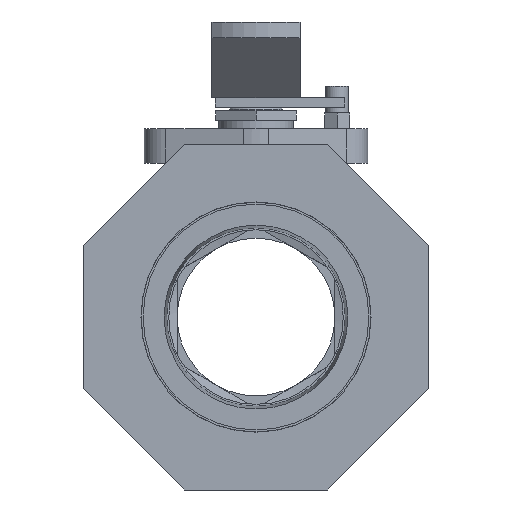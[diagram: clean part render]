
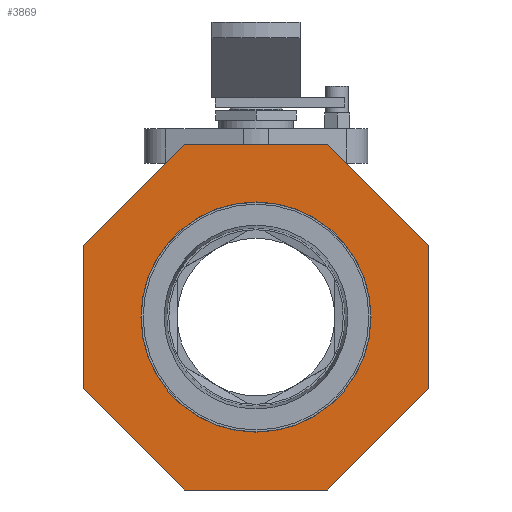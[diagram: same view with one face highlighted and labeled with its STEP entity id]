
A CAD part, left-side view. The second image highlights one B-rep face of the part: STEP entity #3869.
In plain terms, the highlighted free-form (B-spline) face has degree [1, 1] with [2, 2] control points.
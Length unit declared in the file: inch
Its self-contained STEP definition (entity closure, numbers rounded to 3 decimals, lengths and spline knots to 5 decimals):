
#3572=CARTESIAN_POINT('',(0.69873,-1.4375,0.0));
#3573=VERTEX_POINT('',#3572);
#3574=CARTESIAN_POINT('',(0.69873,0.0,0.0));
#3575=DIRECTION('',(-1.0,0.0,0.0));
#3576=DIRECTION('',(0.0,-1.0,0.0));
#3577=AXIS2_PLACEMENT_3D('',#3574,#3575,#3576);
#3578=CIRCLE('',#3577,1.4375);
#3579=EDGE_CURVE('',#3573,#3573,#3578,.T.);
#3599=CARTESIAN_POINT('',(0.69873,2.16,-0.8947));
#3600=VERTEX_POINT('',#3599);
#3607=CARTESIAN_POINT('',(0.69873,2.16,0.8947));
#3608=VERTEX_POINT('',#3607);
#3609=CARTESIAN_POINT('',(0.69873,2.16,0.8947));
#3610=DIRECTION('',(0.0,0.0,-1.0));
#3611=VECTOR('',#3610,1.7894);
#3612=LINE('',#3609,#3611);
#3613=EDGE_CURVE('',#3608,#3600,#3612,.T.);
#3638=CARTESIAN_POINT('',(0.69873,0.8947,2.16));
#3639=VERTEX_POINT('',#3638);
#3640=CARTESIAN_POINT('',(0.69873,0.8947,2.16));
#3641=DIRECTION('',(0.,0.707,-0.707));
#3642=VECTOR('',#3641,1.7894);
#3643=LINE('',#3640,#3642);
#3644=EDGE_CURVE('',#3639,#3608,#3643,.T.);
#3669=CARTESIAN_POINT('',(0.69873,-0.8947,2.16));
#3670=VERTEX_POINT('',#3669);
#3671=CARTESIAN_POINT('',(0.69873,-0.8947,2.16));
#3672=DIRECTION('',(0.0,1.0,0.0));
#3673=VECTOR('',#3672,1.7894);
#3674=LINE('',#3671,#3673);
#3675=EDGE_CURVE('',#3670,#3639,#3674,.T.);
#3700=CARTESIAN_POINT('',(0.69873,-2.16,0.8947));
#3701=VERTEX_POINT('',#3700);
#3702=CARTESIAN_POINT('',(0.69873,-2.16,0.8947));
#3703=DIRECTION('',(0.,0.707,0.707));
#3704=VECTOR('',#3703,1.7894);
#3705=LINE('',#3702,#3704);
#3706=EDGE_CURVE('',#3701,#3670,#3705,.T.);
#3731=CARTESIAN_POINT('',(0.69873,-2.16,-0.8947));
#3732=VERTEX_POINT('',#3731);
#3733=CARTESIAN_POINT('',(0.69873,-2.16,-0.8947));
#3734=DIRECTION('',(0.0,0.0,1.0));
#3735=VECTOR('',#3734,1.7894);
#3736=LINE('',#3733,#3735);
#3737=EDGE_CURVE('',#3732,#3701,#3736,.T.);
#3762=CARTESIAN_POINT('',(0.69873,-0.8947,-2.16));
#3763=VERTEX_POINT('',#3762);
#3764=CARTESIAN_POINT('',(0.69873,-0.8947,-2.16));
#3765=DIRECTION('',(0.,-0.707,0.707));
#3766=VECTOR('',#3765,1.7894);
#3767=LINE('',#3764,#3766);
#3768=EDGE_CURVE('',#3763,#3732,#3767,.T.);
#3793=CARTESIAN_POINT('',(0.69873,0.8947,-2.16));
#3794=VERTEX_POINT('',#3793);
#3795=CARTESIAN_POINT('',(0.69873,0.8947,-2.16));
#3796=DIRECTION('',(0.0,-1.0,0.0));
#3797=VECTOR('',#3796,1.7894);
#3798=LINE('',#3795,#3797);
#3799=EDGE_CURVE('',#3794,#3763,#3798,.T.);
#3822=CARTESIAN_POINT('',(0.69873,2.16,-0.8947));
#3823=DIRECTION('',(0.,-0.707,-0.707));
#3824=VECTOR('',#3823,1.7894);
#3825=LINE('',#3822,#3824);
#3826=EDGE_CURVE('',#3600,#3794,#3825,.T.);
#3851=CARTESIAN_POINT('',(0.69873,-2.16,2.16));
#3852=CARTESIAN_POINT('',(0.69873,-2.16,-2.16));
#3853=CARTESIAN_POINT('',(0.69873,2.16,2.16));
#3854=CARTESIAN_POINT('',(0.69873,2.16,-2.16));
#3855=B_SPLINE_SURFACE_WITH_KNOTS('',1,1,((#3851,#3853),(#3852,#3854)),.UNSPECIFIED.,.F.,.F.,.U.,(2,2),(2,2),(0.0,4.32),(0.0,4.32),.UNSPECIFIED.);
#3856=ORIENTED_EDGE('',*,*,#3826,.T.);
#3857=ORIENTED_EDGE('',*,*,#3799,.T.);
#3858=ORIENTED_EDGE('',*,*,#3768,.T.);
#3859=ORIENTED_EDGE('',*,*,#3737,.T.);
#3860=ORIENTED_EDGE('',*,*,#3706,.T.);
#3861=ORIENTED_EDGE('',*,*,#3675,.T.);
#3862=ORIENTED_EDGE('',*,*,#3644,.T.);
#3863=ORIENTED_EDGE('',*,*,#3613,.T.);
#3864=EDGE_LOOP('',(#3856,#3857,#3858,#3859,#3860,#3861,#3862,#3863));
#3865=FACE_OUTER_BOUND('',#3864,.T.);
#3866=ORIENTED_EDGE('',*,*,#3579,.F.);
#3867=EDGE_LOOP('',(#3866));
#3868=FACE_BOUND('',#3867,.T.);
#3869=ADVANCED_FACE('',(#3865,#3868),#3855,.F.);
